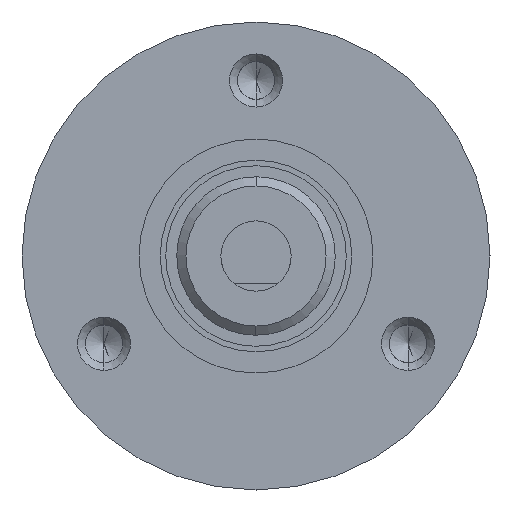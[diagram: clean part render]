
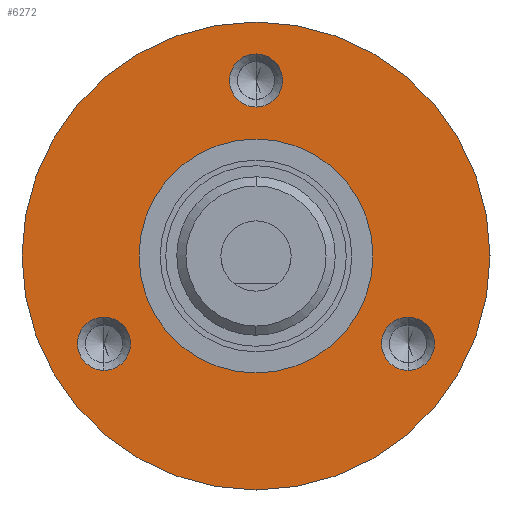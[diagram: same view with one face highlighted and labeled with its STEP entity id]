
A CAD part, left-side view. The second image highlights one B-rep face of the part: STEP entity #6272.
In plain terms, the highlighted planar face has unit normal (-1, 0, 0).
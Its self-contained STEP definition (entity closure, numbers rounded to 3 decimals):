
#38 = DIRECTION ( 'NONE',  ( 0., 0., -1. ) ) ;
#381 = FACE_BOUND ( 'NONE', #11188, .T. ) ;
#384 = CARTESIAN_POINT ( 'NONE',  ( 1.768, 25.422, 23.815 ) ) ;
#431 = DIRECTION ( 'NONE',  ( -1., 0., 0. ) ) ;
#457 = PLANE ( 'NONE',  #9909 ) ;
#808 = DIRECTION ( 'NONE',  ( 1., 0., 0. ) ) ;
#946 = CIRCLE ( 'NONE', #7317, 31.75 ) ;
#1716 = EDGE_LOOP ( 'NONE', ( #7967, #3288 ) ) ;
#1743 = VERTEX_POINT ( 'NONE', #9756 ) ;
#1917 = CIRCLE ( 'NONE', #4402, 15.875 ) ;
#2169 = CARTESIAN_POINT ( 'NONE',  ( 1.768, 46.048, -11.907 ) ) ;
#2234 = AXIS2_PLACEMENT_3D ( 'NONE', #10665, #2773, #2861 ) ;
#2274 = ORIENTED_EDGE ( 'NONE', *, *, #9963, .F. ) ;
#2288 = AXIS2_PLACEMENT_3D ( 'NONE', #16031, #15862, #38 ) ;
#2449 = VERTEX_POINT ( 'NONE', #6595 ) ;
#2522 = DIRECTION ( 'NONE',  ( -1., 0., 0. ) ) ;
#2532 = DIRECTION ( 'NONE',  ( 0., 0., -1. ) ) ;
#2533 = EDGE_CURVE ( 'NONE', #10741, #9560, #2814, .T. ) ;
#2773 = DIRECTION ( 'NONE',  ( -1., 0., 0. ) ) ;
#2814 = CIRCLE ( 'NONE', #13395, 3.603 ) ;
#2861 = DIRECTION ( 'NONE',  ( 0., 0., 1. ) ) ;
#3154 = DIRECTION ( 'NONE',  ( 0., 0., 1. ) ) ;
#3240 = CARTESIAN_POINT ( 'NONE',  ( 1.768, 25.423, 0. ) ) ;
#3288 = ORIENTED_EDGE ( 'NONE', *, *, #17215, .F. ) ;
#3546 = DIRECTION ( 'NONE',  ( 1., 0., 0. ) ) ;
#4007 = CARTESIAN_POINT ( 'NONE',  ( 1.768, 25.423, -15.875 ) ) ;
#4402 = AXIS2_PLACEMENT_3D ( 'NONE', #4710, #808, #10162 ) ;
#4462 = CARTESIAN_POINT ( 'NONE',  ( 1.768, 25.422, 20.212 ) ) ;
#4710 = CARTESIAN_POINT ( 'NONE',  ( 1.768, 25.423, 0. ) ) ;
#4846 = DIRECTION ( 'NONE',  ( -1., 0., 0. ) ) ;
#5447 = CARTESIAN_POINT ( 'NONE',  ( 1.768, 46.048, -15.51 ) ) ;
#5488 = CARTESIAN_POINT ( 'NONE',  ( 1.768, 25.423, -31.75 ) ) ;
#5666 = FACE_OUTER_BOUND ( 'NONE', #8873, .T. ) ;
#6019 = DIRECTION ( 'NONE',  ( -1., 0., 0. ) ) ;
#6070 = AXIS2_PLACEMENT_3D ( 'NONE', #384, #16373, #8444 ) ;
#6272 = ADVANCED_FACE ( 'NONE', ( #13588, #12360, #12284, #381, #5666 ), #457, .T. ) ;
#6502 = DIRECTION ( 'NONE',  ( 0., 0., -1. ) ) ;
#6595 = CARTESIAN_POINT ( 'NONE',  ( 1.768, 25.422, 27.418 ) ) ;
#6677 = CIRCLE ( 'NONE', #8613, 31.75 ) ;
#6807 = CARTESIAN_POINT ( 'NONE',  ( 1.768, 4.799, -8.305 ) ) ;
#7317 = AXIS2_PLACEMENT_3D ( 'NONE', #3240, #10225, #2532 ) ;
#7434 = VERTEX_POINT ( 'NONE', #5488 ) ;
#7488 = EDGE_CURVE ( 'NONE', #14207, #2449, #13597, .T. ) ;
#7521 = CARTESIAN_POINT ( 'NONE',  ( 1.768, 46.048, -8.304 ) ) ;
#7549 = DIRECTION ( 'NONE',  ( 0., 0., 1. ) ) ;
#7967 = ORIENTED_EDGE ( 'NONE', *, *, #2533, .F. ) ;
#8444 = DIRECTION ( 'NONE',  ( 0., 0., 1. ) ) ;
#8613 = AXIS2_PLACEMENT_3D ( 'NONE', #11810, #3546, #6502 ) ;
#8869 = ORIENTED_EDGE ( 'NONE', *, *, #9897, .F. ) ;
#8873 = EDGE_LOOP ( 'NONE', ( #12390, #2274 ) ) ;
#9188 = AXIS2_PLACEMENT_3D ( 'NONE', #2169, #4846, #14819 ) ;
#9560 = VERTEX_POINT ( 'NONE', #13062 ) ;
#9756 = CARTESIAN_POINT ( 'NONE',  ( 1.768, 25.423, 31.75 ) ) ;
#9822 = VERTEX_POINT ( 'NONE', #12682 ) ;
#9897 = EDGE_CURVE ( 'NONE', #14882, #16783, #12537, .T. ) ;
#9909 = AXIS2_PLACEMENT_3D ( 'NONE', #16112, #10963, #3154 ) ;
#9963 = EDGE_CURVE ( 'NONE', #1743, #7434, #6677, .T. ) ;
#10002 = DIRECTION ( 'NONE',  ( 0., 0., 1. ) ) ;
#10063 = EDGE_CURVE ( 'NONE', #2449, #14207, #15837, .T. ) ;
#10162 = DIRECTION ( 'NONE',  ( 0., 0., -1. ) ) ;
#10186 = ORIENTED_EDGE ( 'NONE', *, *, #10063, .F. ) ;
#10224 = ORIENTED_EDGE ( 'NONE', *, *, #15313, .T. ) ;
#10225 = DIRECTION ( 'NONE',  ( 1., 0., 0. ) ) ;
#10273 = CIRCLE ( 'NONE', #9188, 3.603 ) ;
#10665 = CARTESIAN_POINT ( 'NONE',  ( 1.768, 25.422, 23.815 ) ) ;
#10741 = VERTEX_POINT ( 'NONE', #6807 ) ;
#10818 = EDGE_CURVE ( 'NONE', #16783, #14882, #10273, .T. ) ;
#10963 = DIRECTION ( 'NONE',  ( -1., 0., 0. ) ) ;
#11188 = EDGE_LOOP ( 'NONE', ( #10224, #15195 ) ) ;
#11284 = ORIENTED_EDGE ( 'NONE', *, *, #7488, .F. ) ;
#11432 = CIRCLE ( 'NONE', #2288, 15.875 ) ;
#11810 = CARTESIAN_POINT ( 'NONE',  ( 1.768, 25.423, 0. ) ) ;
#11939 = EDGE_CURVE ( 'NONE', #9822, #14496, #11432, .T. ) ;
#12284 = FACE_BOUND ( 'NONE', #16689, .T. ) ;
#12360 = FACE_BOUND ( 'NONE', #1716, .T. ) ;
#12390 = ORIENTED_EDGE ( 'NONE', *, *, #13117, .F. ) ;
#12537 = CIRCLE ( 'NONE', #16995, 3.603 ) ;
#12682 = CARTESIAN_POINT ( 'NONE',  ( 1.768, 25.423, 15.875 ) ) ;
#13062 = CARTESIAN_POINT ( 'NONE',  ( 1.768, 4.799, -15.511 ) ) ;
#13117 = EDGE_CURVE ( 'NONE', #7434, #1743, #946, .T. ) ;
#13393 = EDGE_LOOP ( 'NONE', ( #10186, #11284 ) ) ;
#13395 = AXIS2_PLACEMENT_3D ( 'NONE', #15032, #431, #13729 ) ;
#13588 = FACE_BOUND ( 'NONE', #13393, .T. ) ;
#13597 = CIRCLE ( 'NONE', #6070, 3.603 ) ;
#13729 = DIRECTION ( 'NONE',  ( 0., 0., 1. ) ) ;
#14207 = VERTEX_POINT ( 'NONE', #4462 ) ;
#14496 = VERTEX_POINT ( 'NONE', #4007 ) ;
#14819 = DIRECTION ( 'NONE',  ( 0., 0., 1. ) ) ;
#14882 = VERTEX_POINT ( 'NONE', #7521 ) ;
#15032 = CARTESIAN_POINT ( 'NONE',  ( 1.768, 4.799, -11.908 ) ) ;
#15195 = ORIENTED_EDGE ( 'NONE', *, *, #11939, .T. ) ;
#15295 = AXIS2_PLACEMENT_3D ( 'NONE', #15419, #6019, #10002 ) ;
#15313 = EDGE_CURVE ( 'NONE', #14496, #9822, #1917, .T. ) ;
#15419 = CARTESIAN_POINT ( 'NONE',  ( 1.768, 4.799, -11.908 ) ) ;
#15837 = CIRCLE ( 'NONE', #2234, 3.603 ) ;
#15862 = DIRECTION ( 'NONE',  ( 1., 0., 0. ) ) ;
#16031 = CARTESIAN_POINT ( 'NONE',  ( 1.768, 25.423, 0. ) ) ;
#16112 = CARTESIAN_POINT ( 'NONE',  ( 1.768, 41.298, 0. ) ) ;
#16373 = DIRECTION ( 'NONE',  ( -1., 0., 0. ) ) ;
#16620 = ORIENTED_EDGE ( 'NONE', *, *, #10818, .F. ) ;
#16689 = EDGE_LOOP ( 'NONE', ( #8869, #16620 ) ) ;
#16783 = VERTEX_POINT ( 'NONE', #5447 ) ;
#16982 = CIRCLE ( 'NONE', #15295, 3.603 ) ;
#16995 = AXIS2_PLACEMENT_3D ( 'NONE', #17047, #2522, #7549 ) ;
#17047 = CARTESIAN_POINT ( 'NONE',  ( 1.768, 46.048, -11.907 ) ) ;
#17215 = EDGE_CURVE ( 'NONE', #9560, #10741, #16982, .T. ) ;
